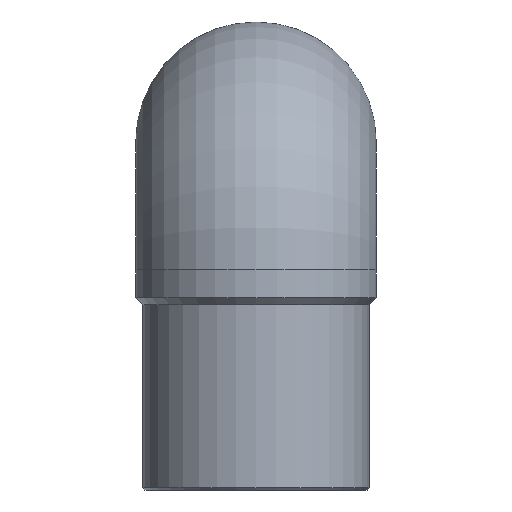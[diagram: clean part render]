
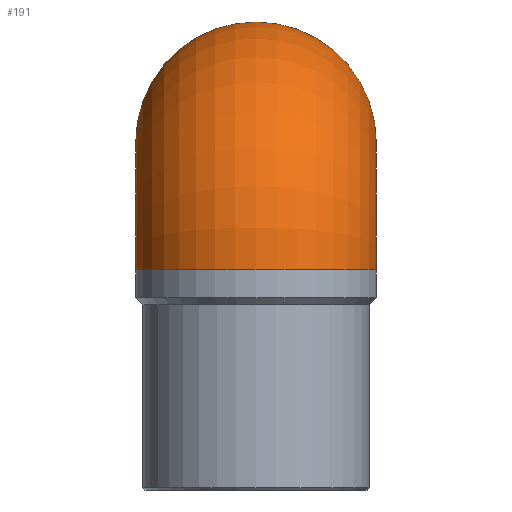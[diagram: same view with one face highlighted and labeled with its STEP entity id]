
A CAD part, left-side view. The second image highlights one B-rep face of the part: STEP entity #191.
In plain terms, the highlighted toroidal (fillet/blend) face has major radius 62 mm and minor radius 58.5 mm.
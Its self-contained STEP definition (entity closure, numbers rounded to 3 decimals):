
#20=TOROIDAL_SURFACE('',#231,62.,58.5);
#59=ORIENTED_EDGE('',*,*,#77,.F.);
#60=ORIENTED_EDGE('',*,*,#79,.T.);
#77=EDGE_CURVE('',#96,#96,#114,.F.);
#79=EDGE_CURVE('',#98,#98,#116,.F.);
#96=VERTEX_POINT('',#312);
#98=VERTEX_POINT('',#318);
#114=CIRCLE('',#217,58.5);
#116=CIRCLE('',#221,58.5);
#142=EDGE_LOOP('',(#59));
#143=EDGE_LOOP('',(#60));
#169=FACE_BOUND('',#142,.T.);
#170=FACE_BOUND('',#143,.T.);
#191=ADVANCED_FACE('',(#169,#170),#20,.T.);
#217=AXIS2_PLACEMENT_3D('',#311,#256,#257);
#221=AXIS2_PLACEMENT_3D('',#317,#264,#265);
#231=AXIS2_PLACEMENT_3D('',#363,#284,#285);
#256=DIRECTION('',(-1.,0.,0.));
#257=DIRECTION('',(0.,0.,-1.));
#264=DIRECTION('',(0.,0.,-1.));
#265=DIRECTION('',(1.,0.,0.));
#284=DIRECTION('',(0.,1.,0.));
#285=DIRECTION('',(0.,0.,1.));
#311=CARTESIAN_POINT('',(62.,0.,169.));
#312=CARTESIAN_POINT('',(62.,0.,110.5));
#317=CARTESIAN_POINT('',(0.,0.,107.));
#318=CARTESIAN_POINT('',(58.5,0.,107.));
#363=CARTESIAN_POINT('',(62.,0.,107.));
